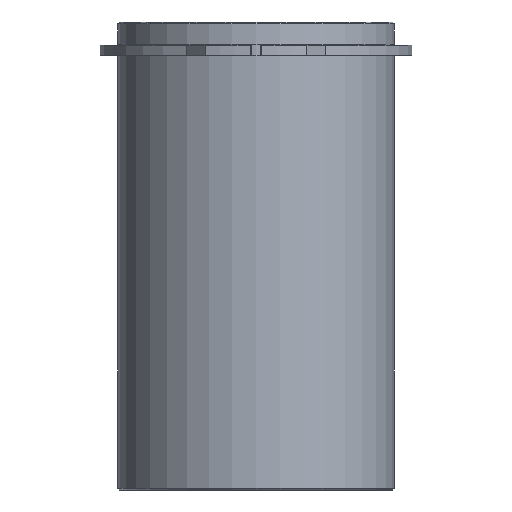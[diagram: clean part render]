
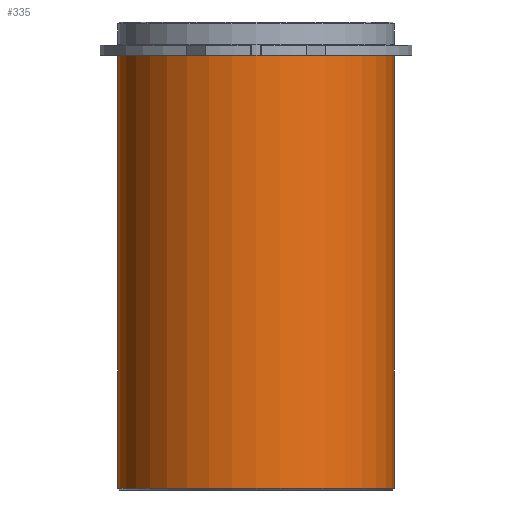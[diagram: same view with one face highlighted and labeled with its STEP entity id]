
A CAD part, front view. The second image highlights one B-rep face of the part: STEP entity #335.
In plain terms, the highlighted cylindrical face has radius 23.625 mm (diameter 47.25 mm), a partial arc.
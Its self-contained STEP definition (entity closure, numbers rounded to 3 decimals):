
#294=CARTESIAN_POINT('',(0.0,0.,-37.0));
#295=DIRECTION('',(0.0,0.,1.0));
#296=DIRECTION('',(1.0,0.0,0.0));
#297=AXIS2_PLACEMENT_3D('',#294,#295,#296);
#298=CYLINDRICAL_SURFACE('',#297,23.625);
#299=CARTESIAN_POINT('',(23.625,0.0,0.0));
#300=VERTEX_POINT('',#299);
#301=CARTESIAN_POINT('',(23.625,0.,-74.0));
#302=VERTEX_POINT('',#301);
#303=CARTESIAN_POINT('',(23.625,0.0,0.0));
#304=DIRECTION('',(0.0,0.0,-1.0));
#305=VECTOR('',#304,74.0);
#306=LINE('',#303,#305);
#307=EDGE_CURVE('',#300,#302,#306,.T.);
#308=ORIENTED_EDGE('',*,*,#307,.F.);
#309=CARTESIAN_POINT('',(-23.625,0.,0.0));
#310=VERTEX_POINT('',#309);
#311=CARTESIAN_POINT('',(0.0,0.0,0.0));
#312=DIRECTION('',(0.0,0.0,1.0));
#313=DIRECTION('',(1.0,0.0,0.0));
#314=AXIS2_PLACEMENT_3D('',#311,#312,#313);
#315=CIRCLE('',#314,23.625);
#316=EDGE_CURVE('',#310,#300,#315,.T.);
#317=ORIENTED_EDGE('',*,*,#316,.F.);
#318=CARTESIAN_POINT('',(-23.625,0.,-74.0));
#319=VERTEX_POINT('',#318);
#320=CARTESIAN_POINT('',(-23.625,0.,0.0));
#321=DIRECTION('',(0.0,0.0,-1.0));
#322=VECTOR('',#321,74.0);
#323=LINE('',#320,#322);
#324=EDGE_CURVE('',#310,#319,#323,.T.);
#325=ORIENTED_EDGE('',*,*,#324,.T.);
#326=CARTESIAN_POINT('',(0.0,0.,-74.0));
#327=DIRECTION('',(0.0,0.0,1.0));
#328=DIRECTION('',(1.0,0.0,0.0));
#329=AXIS2_PLACEMENT_3D('',#326,#327,#328);
#330=CIRCLE('',#329,23.625);
#331=EDGE_CURVE('',#319,#302,#330,.T.);
#332=ORIENTED_EDGE('',*,*,#331,.T.);
#333=EDGE_LOOP('',(#308,#317,#325,#332));
#334=FACE_OUTER_BOUND('',#333,.T.);
#335=ADVANCED_FACE('',(#334),#298,.T.);
